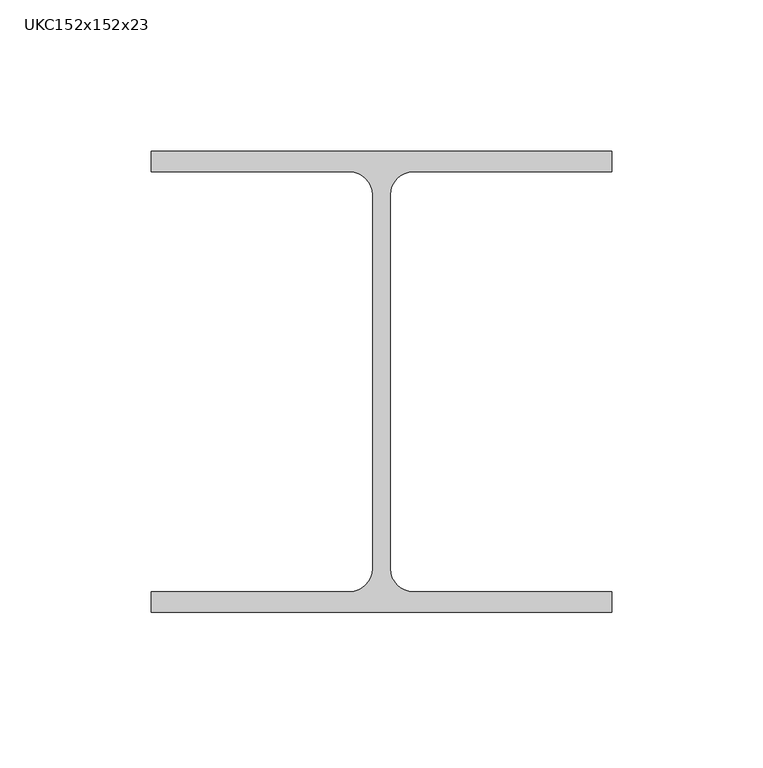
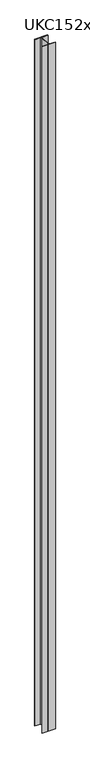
"""IFC4 building model written with IfcOpenShell, lengths in millimetres: column geometry, UKC-UK Columns-Column : UKC152x152x23."""

from ifc_helpers import new_model, si_unit, point, frame, frame_2d, origin, place, context, project, spatial, polyline, circle_curve, trimmed, segment, composite_curve, outline, extrude, source, transform, mapped, element, save


def ukc152x152x23_9a19e920(model_context):
    return source(origin(), model_context, "Body", "SweptSolid", [
        extrude(outline(composite_curve([segment(polyline([(76.1, 76.2), (76.1, 69.4), (10.5, 69.4)]), True, "CONTINUOUS"), segment(trimmed(circle_curve(frame_2d((10.5, 61.8)), 7.6), [point((10.5, 69.4))], [point((2.9, 61.8))], True, "CARTESIAN"), True, "CONTINUOUS"), segment(polyline([(2.9, 61.8), (2.9, -61.8)]), True, "CONTINUOUS"), segment(trimmed(circle_curve(frame_2d((10.5, -61.8)), 7.6), [point((2.9, -61.8))], [point((10.5, -69.4))], True, "CARTESIAN"), True, "CONTINUOUS"), segment(polyline([(10.5, -69.4), (76.1, -69.4), (76.1, -76.2), (-76.1, -76.2), (-76.1, -69.4), (-10.5, -69.4)]), True, "CONTINUOUS"), segment(trimmed(circle_curve(frame_2d((-10.5, -61.8)), 7.6), [point((-10.5, -69.4))], [point((-2.9, -61.8))], True, "CARTESIAN"), True, "CONTINUOUS"), segment(polyline([(-2.9, -61.8), (-2.9, 61.8)]), True, "CONTINUOUS"), segment(trimmed(circle_curve(frame_2d((-10.5, 61.8)), 7.6), [point((-2.9, 61.8))], [point((-10.5, 69.4))], True, "CARTESIAN"), True, "CONTINUOUS"), segment(polyline([(-10.5, 69.4), (-76.1, 69.4), (-76.1, 76.2), (76.1, 76.2)]), True, "CONTINUOUS")], self_intersect=False)), frame((0.0, 0.0, -450.0), z_axis=(0.0, 0.0, 1.0), x_axis=(1.0, 0.0, 0.0)), (0.0, 0.0, 1.0), 8450.0),
    ])


if __name__ == "__main__":
    model = new_model("IFC4")
    model_context = context("Model", 3, world=origin())
    ifc_project = project(units=[si_unit("LENGTHUNIT", "METRE", prefix="MILLI")], contexts=[model_context])
    site = spatial("IfcSite", under=ifc_project)
    building = spatial("IfcBuilding", under=site)
    placement = place(None, origin())
    ukc152x152x23_shape = ukc152x152x23_9a19e920(model_context)
    element("IfcColumn", 1, ObjectType="UKC-UK Columns-Column : UKC152x152x23", at=placement, inside=building, context=model_context, shape_type="MappedRepresentation", body=[
        mapped(ukc152x152x23_shape, transform((0.0, 0.0, 0.0), x_axis=(1.0, 0.0, 0.0), y_axis=(0.0, 1.0, 0.0), z_axis=(0.0, 0.0, 1.0))),
    ])
    save(model, "model.ifc")
